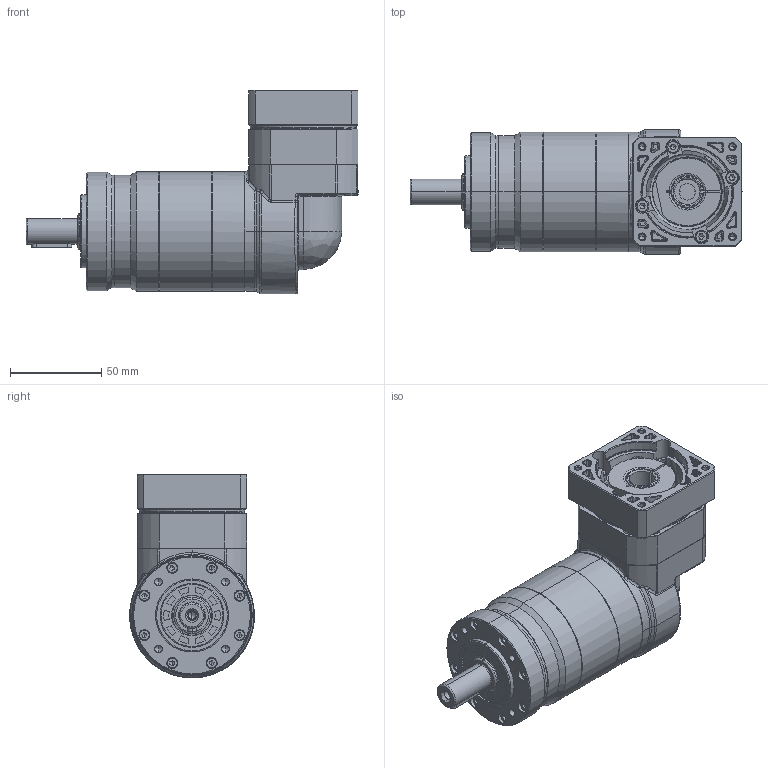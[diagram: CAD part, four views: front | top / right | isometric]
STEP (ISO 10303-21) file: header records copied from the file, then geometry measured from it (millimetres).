
FILE_DESCRIPTION (( 'STEP AP214' ), '1' );
FILE_NAME ('FER060-L2-S2-P1 14-50-70-M4-33.STEP', '2025-02-19T01:07:26', ( '微软用户' ), ( '微软中国' ), 'SwSTEP 2.0', 'SolidWorks 2021', '' );
FILE_SCHEMA (( 'AUTOMOTIVE_DESIGN' ));
Length unit declared in the file: millimetre
Products named in the file (4): FER060-L2-S2-P1 14-50-70-M4-33; FER060D-L2-14-50-70-M4-33; 3.EVT064F眻褒眊极_step_stp_stp.stp; EVT060D-L2-8-38.1-66.7-M4-33
Assembly tree (7 placements, depth 2):
  FER060-L2-S2-P1 14-50-70-M4-33
    FER060D-L2-14-50-70-M4-33
    3.EVT064F眻褒眊极_step_stp_stp.stp
    EVT060D-L2-8-38.1-66.7-M4-33  x5
Bounding box: 182 x 68.5 x 111.75 mm (x, y, z)
Volume: 92080.2 mm3; surface area: 132567.2 mm2
Topology: 1 solids, 44 shells, 1693 faces, 4201 edges, 2610 vertices
Faces by surface type: cylinder 543, plane 476, cone 296, bspline 206, torus 172
Entity records: 65885 total; most frequent: CARTESIAN_POINT 30432, ORIENTED_EDGE 7506, DIRECTION 7012, EDGE_CURVE 3786, AXIS2_PLACEMENT_3D 2864, VERTEX_POINT 2398, EDGE_LOOP 1749, FACE_OUTER_BOUND 1565
